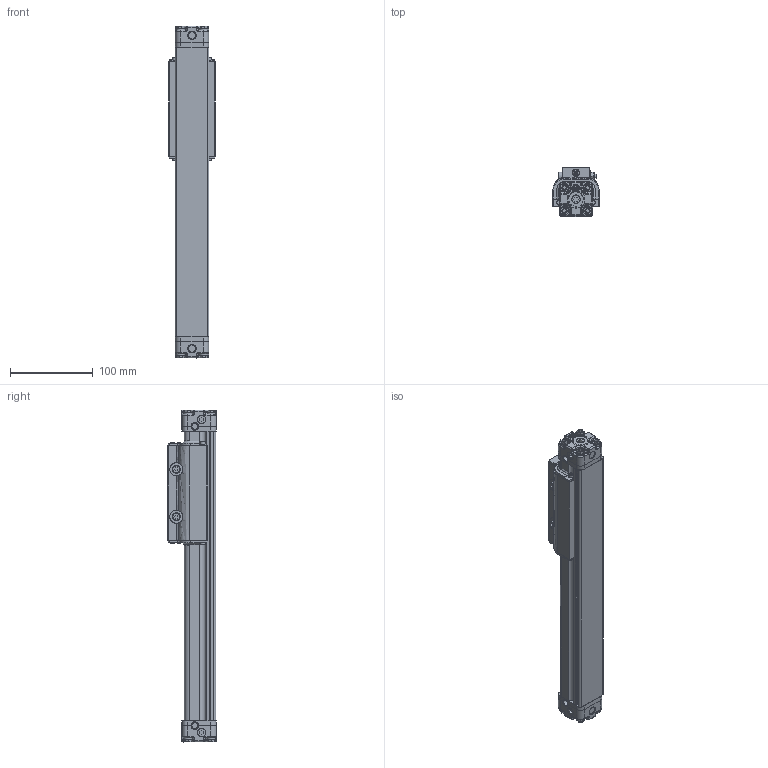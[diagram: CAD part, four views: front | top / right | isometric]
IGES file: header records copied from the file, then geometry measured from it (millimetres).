
Start section: SolidWorks IGES file using analytic representation for surfaces
Global section: file name: N:\Temp\BC210_NP_SK7.874_BC2-486614-1.igs; native system: SolidWorks 2024; preprocessor: SolidWorks 2024; author: MB; date: 250421.091255; units: inch
Bounding box: 55.47 x 58.55 x 400.3 mm (x, y, z)
Surface area: 147962.1 mm2 (no closed solid volume)
Topology: 0 solids, 0 shells, 1604 faces, 19138 edges, 18982 vertices
Faces by surface type: bspline 1286, revolution 318
